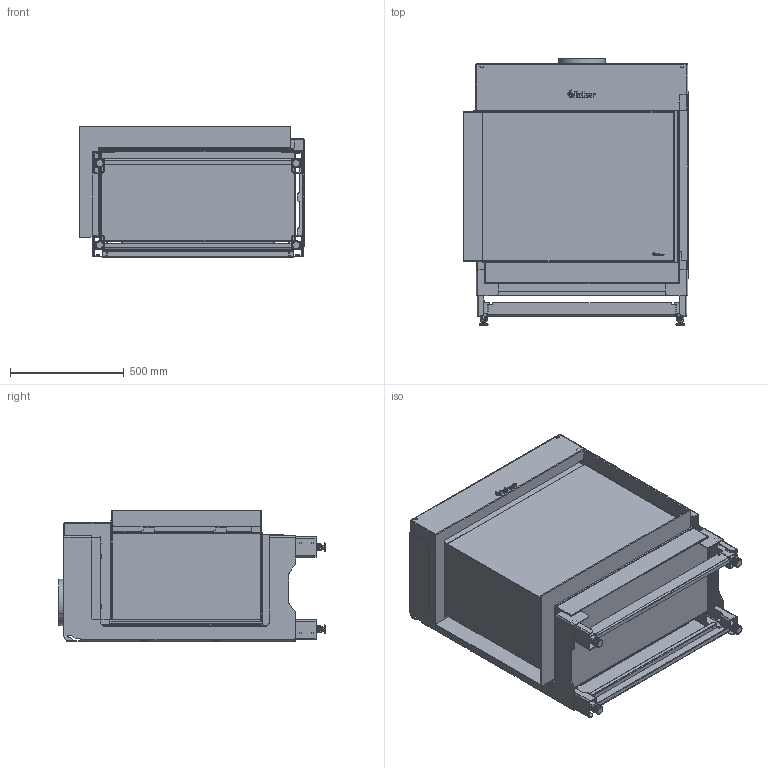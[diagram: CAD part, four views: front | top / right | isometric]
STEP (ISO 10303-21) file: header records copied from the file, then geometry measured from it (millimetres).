
FILE_DESCRIPTION (( 'STEP AP214' ), '1' );
FILE_NAME ('Faber MatriX Hybrid 800x650 IIL.STEP', '2022-06-01T07:24:58', ( '' ), ( '' ), 'SwSTEP 2.0', 'SolidWorks 2021', '' );
FILE_SCHEMA (( 'AUTOMOTIVE_DESIGN' ));
Length unit declared in the file: millimetre
Products named in the file (1): Faber MatriX Hybrid 800x650 IIL
Bounding box: 987.5 x 1173.2 x 574 mm (x, y, z)
Volume: 18522449.9 mm3; surface area: 15157854.3 mm2
Topology: 45 solids, 49 shells, 2600 faces, 6716 edges, 4180 vertices
Faces by surface type: plane 1556, cylinder 799, bspline 115, cone 108, torus 22
Entity records: 97417 total; most frequent: CARTESIAN_POINT 34050, ORIENTED_EDGE 13374, DIRECTION 12770, EDGE_CURVE 6687, LINE 4518, VECTOR 4518, VERTEX_POINT 4175, AXIS2_PLACEMENT_3D 4126
